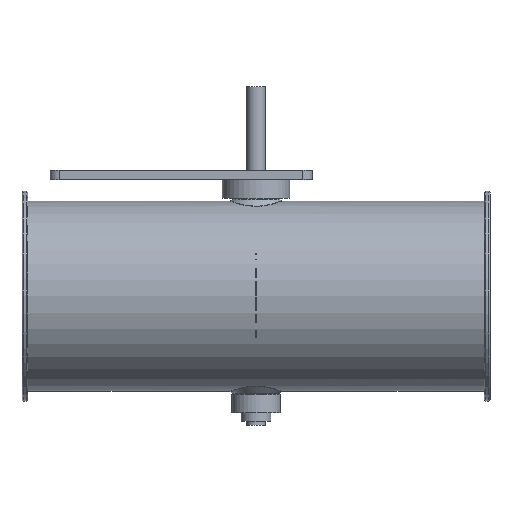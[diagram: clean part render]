
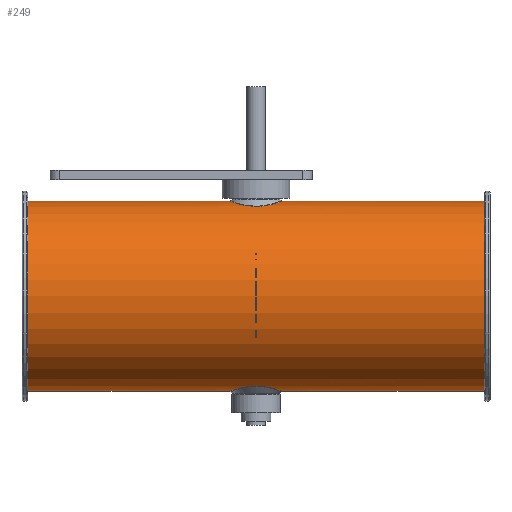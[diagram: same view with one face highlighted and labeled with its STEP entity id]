
A CAD part, top view. The second image highlights one B-rep face of the part: STEP entity #249.
In plain terms, the highlighted cylindrical face has radius 50.8 mm (diameter 101.6 mm), a full revolution.
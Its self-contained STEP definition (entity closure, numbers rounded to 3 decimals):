
#113=B_SPLINE_CURVE_WITH_KNOTS('',3,(#1591,#1592,#1593,#1594,#1595,#1596,
#1597,#1598,#1599,#1600,#1601,#1602,#1603,#1604,#1605,#1606,#1607,#1608,
#1609,#1610,#1611,#1612,#1613,#1614),.UNSPECIFIED.,.T.,.F.,(2,2,2,2,2,2,
2,2,2,2,2,2,2,2),(-0.063,0.,0.063,0.125,0.25,0.375,
0.438,0.5,0.625,0.75,0.875,0.938,1.,1.063),.UNSPECIFIED.);
#114=B_SPLINE_CURVE_WITH_KNOTS('',3,(#1616,#1617,#1618,#1619,#1620,#1621,
#1622,#1623,#1624,#1625,#1626,#1627,#1628,#1629,#1630,#1631,#1632,#1633,
#1634,#1635,#1636,#1637,#1638,#1639,#1640,#1641),.UNSPECIFIED.,.T.,.F.,(2,
2,2,2,2,2,2,2,2,2,2,2,2,2,2),(-0.062,0.,0.063,
0.125,0.25,0.375,0.438,0.5,
0.563,0.625,0.75,0.875,0.938,1.,1.063),.UNSPECIFIED.);
#211=CYLINDRICAL_SURFACE('',#1111,50.8);
#249=ADVANCED_FACE('',(#373,#374,#375,#376),#211,.T.);
#373=FACE_BOUND('',#507,.T.);
#374=FACE_BOUND('',#508,.T.);
#375=FACE_BOUND('',#509,.T.);
#376=FACE_BOUND('',#510,.T.);
#507=EDGE_LOOP('',(#669));
#508=EDGE_LOOP('',(#670));
#509=EDGE_LOOP('',(#671));
#510=EDGE_LOOP('',(#672));
#669=ORIENTED_EDGE('',*,*,#925,.T.);
#670=ORIENTED_EDGE('',*,*,#926,.T.);
#671=ORIENTED_EDGE('',*,*,#927,.T.);
#672=ORIENTED_EDGE('',*,*,#928,.F.);
#833=VERTEX_POINT('',#1590);
#834=VERTEX_POINT('',#1615);
#835=VERTEX_POINT('',#1642);
#836=VERTEX_POINT('',#1644);
#925=EDGE_CURVE('',#833,#833,#1017,.T.);
#926=EDGE_CURVE('',#834,#834,#113,.T.);
#927=EDGE_CURVE('',#835,#835,#114,.T.);
#928=EDGE_CURVE('',#836,#836,#1018,.T.);
#1017=CIRCLE('',#1109,50.8);
#1018=CIRCLE('',#1110,50.8);
#1109=AXIS2_PLACEMENT_3D('',#1589,#1305,#1306);
#1110=AXIS2_PLACEMENT_3D('',#1643,#1307,#1308);
#1111=AXIS2_PLACEMENT_3D('',#1645,#1309,#1310);
#1305=DIRECTION('',(1.,0.,0.));
#1306=DIRECTION('',(0.,0.,1.));
#1307=DIRECTION('',(1.,0.,0.));
#1308=DIRECTION('',(0.,0.,1.));
#1309=DIRECTION('',(1.,0.,0.));
#1310=DIRECTION('',(0.,0.,-1.));
#1589=CARTESIAN_POINT('',(-122.,-8.3,125.));
#1590=CARTESIAN_POINT('',(-122.,-8.3,175.8));
#1591=CARTESIAN_POINT('',(-0.641,-56.186,108.034));
#1592=CARTESIAN_POINT('',(-4.642,-56.512,108.986));
#1593=CARTESIAN_POINT('',(-6.468,-56.847,109.98));
#1594=CARTESIAN_POINT('',(-9.553,-57.571,112.56));
#1595=CARTESIAN_POINT('',(-10.827,-57.959,114.145));
#1596=CARTESIAN_POINT('',(-13.777,-58.917,119.411));
#1597=CARTESIAN_POINT('',(-14.546,-59.241,123.656));
#1598=CARTESIAN_POINT('',(-13.401,-58.819,131.681));
#1599=CARTESIAN_POINT('',(-11.513,-58.078,135.52));
#1600=CARTESIAN_POINT('',(-7.107,-56.98,139.59));
#1601=CARTESIAN_POINT('',(-5.35,-56.624,140.679));
#1602=CARTESIAN_POINT('',(-1.462,-56.217,141.883));
#1603=CARTESIAN_POINT('',(0.658,-56.187,141.964));
#1604=CARTESIAN_POINT('',(6.633,-56.676,140.537));
#1605=CARTESIAN_POINT('',(9.833,-57.636,137.623));
#1606=CARTESIAN_POINT('',(13.773,-58.916,130.604));
#1607=CARTESIAN_POINT('',(14.545,-59.241,126.368));
#1608=CARTESIAN_POINT('',(13.406,-58.821,118.329));
#1609=CARTESIAN_POINT('',(11.52,-58.081,114.494));
#1610=CARTESIAN_POINT('',(7.126,-56.984,110.424));
#1611=CARTESIAN_POINT('',(5.371,-56.627,109.329));
#1612=CARTESIAN_POINT('',(1.456,-56.216,108.114));
#1613=CARTESIAN_POINT('',(-0.641,-56.186,108.034));
#1614=CARTESIAN_POINT('',(-4.642,-56.512,108.986));
#1615=CARTESIAN_POINT('',(-2.641,-56.349,108.51));
#1616=CARTESIAN_POINT('',(-4.643,39.912,108.986));
#1617=CARTESIAN_POINT('',(-0.639,39.586,108.033));
#1618=CARTESIAN_POINT('',(1.467,39.617,108.117));
#1619=CARTESIAN_POINT('',(5.359,40.025,109.325));
#1620=CARTESIAN_POINT('',(7.129,40.385,110.426));
#1621=CARTESIAN_POINT('',(11.529,41.484,114.504));
#1622=CARTESIAN_POINT('',(13.415,42.224,118.36));
#1623=CARTESIAN_POINT('',(14.542,42.64,126.377));
#1624=CARTESIAN_POINT('',(13.758,42.311,130.637));
#1625=CARTESIAN_POINT('',(10.814,41.355,135.871));
#1626=CARTESIAN_POINT('',(9.527,40.964,137.467));
#1627=CARTESIAN_POINT('',(6.453,40.245,140.028));
#1628=CARTESIAN_POINT('',(4.6,39.908,141.028));
#1629=CARTESIAN_POINT('',(0.649,39.587,141.961));
#1630=CARTESIAN_POINT('',(-1.48,39.617,141.881));
#1631=CARTESIAN_POINT('',(-5.371,40.027,140.669));
#1632=CARTESIAN_POINT('',(-7.124,40.384,139.578));
#1633=CARTESIAN_POINT('',(-11.526,41.483,135.5));
#1634=CARTESIAN_POINT('',(-13.409,42.222,131.678));
#1635=CARTESIAN_POINT('',(-14.548,42.642,123.589));
#1636=CARTESIAN_POINT('',(-13.777,42.317,119.4));
#1637=CARTESIAN_POINT('',(-10.809,41.353,114.119));
#1638=CARTESIAN_POINT('',(-9.548,40.97,112.554));
#1639=CARTESIAN_POINT('',(-6.46,40.246,109.975));
#1640=CARTESIAN_POINT('',(-4.643,39.912,108.986));
#1641=CARTESIAN_POINT('',(-0.639,39.586,108.033));
#1642=CARTESIAN_POINT('',(-2.641,39.749,108.51));
#1643=CARTESIAN_POINT('',(122.,-8.3,125.));
#1644=CARTESIAN_POINT('',(122.,-8.3,175.8));
#1645=CARTESIAN_POINT('',(-125.,-8.3,125.));
